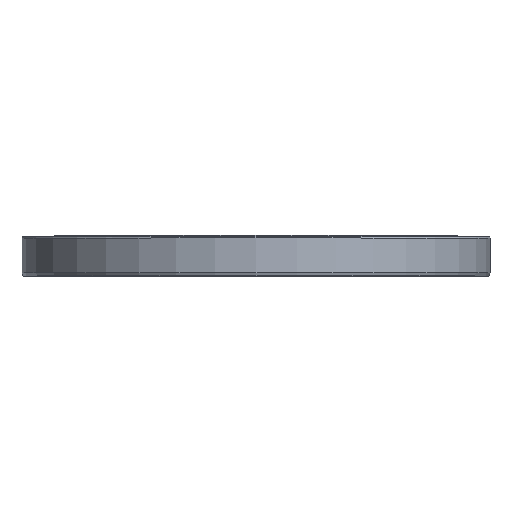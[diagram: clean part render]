
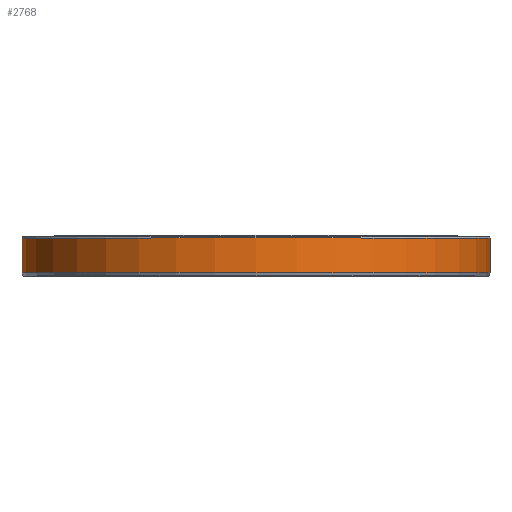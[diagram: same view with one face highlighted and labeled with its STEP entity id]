
A CAD part, top view. The second image highlights one B-rep face of the part: STEP entity #2768.
In plain terms, the highlighted cylindrical face has radius 147.5 mm (diameter 295 mm), a partial arc.
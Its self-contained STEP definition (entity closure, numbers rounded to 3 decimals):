
#729=CARTESIAN_POINT('',(0.,2.,0.));
#730=DIRECTION('',(0.,1.,0.));
#731=DIRECTION('',(-1.,0.,0.));
#732=AXIS2_PLACEMENT_3D('',#729,#730,#731);
#734=CARTESIAN_POINT('',(0.,23.8,0.));
#735=DIRECTION('',(0.,-1.,0.));
#736=DIRECTION('',(1.,0.,0.));
#737=AXIS2_PLACEMENT_3D('',#734,#735,#736);
#739=DIRECTION('',(0.,-1.,0.));
#740=VECTOR('',#739,21.8);
#741=CARTESIAN_POINT('',(-147.5,23.8,0.));
#742=LINE('',#741,#740);
#743=DIRECTION('',(0.,1.,0.));
#744=VECTOR('',#743,21.8);
#745=CARTESIAN_POINT('',(147.5,2.,0.));
#746=LINE('',#745,#744);
#1795=CARTESIAN_POINT('',(-147.5,2.,0.));
#1797=VERTEX_POINT('',#1795);
#1825=CARTESIAN_POINT('',(147.5,2.,0.));
#1827=VERTEX_POINT('',#1825);
#2001=CARTESIAN_POINT('',(-147.5,23.8,0.));
#2002=CARTESIAN_POINT('',(147.5,23.8,0.));
#2003=VERTEX_POINT('',#2001);
#2004=VERTEX_POINT('',#2002);
#2754=CARTESIAN_POINT('',(0.,0.,0.));
#2755=DIRECTION('',(0.,1.,0.));
#2756=DIRECTION('',(1.,0.,0.));
#2757=AXIS2_PLACEMENT_3D('',#2754,#2755,#2756);
#2758=CYLINDRICAL_SURFACE('',#2757,147.5);
#2760=ORIENTED_EDGE('',*,*,#2759,.F.);
#2761=ORIENTED_EDGE('',*,*,#2740,.F.);
#2763=ORIENTED_EDGE('',*,*,#2762,.F.);
#2765=ORIENTED_EDGE('',*,*,#2764,.F.);
#2766=EDGE_LOOP('',(#2760,#2761,#2763,#2765));
#2767=FACE_OUTER_BOUND('',#2766,.F.);
#733=CIRCLE('',#732,147.5);
#738=CIRCLE('',#737,147.5);
#2740=EDGE_CURVE('',#1797,#1827,#733,.T.);
#2759=EDGE_CURVE('',#1827,#2004,#746,.T.);
#2762=EDGE_CURVE('',#2003,#1797,#742,.T.);
#2764=EDGE_CURVE('',#2004,#2003,#738,.T.);
#2768=ADVANCED_FACE('',(#2767),#2758,.T.);
